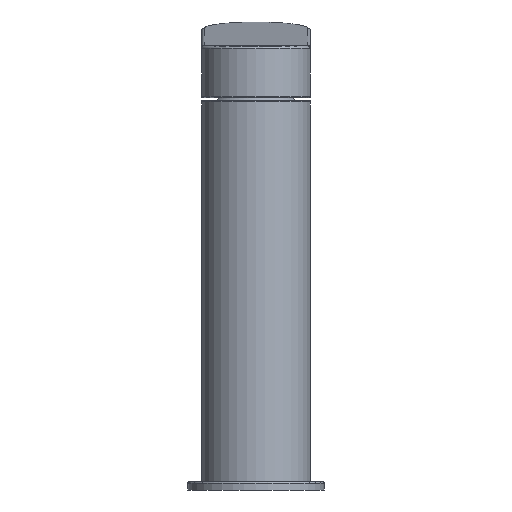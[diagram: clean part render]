
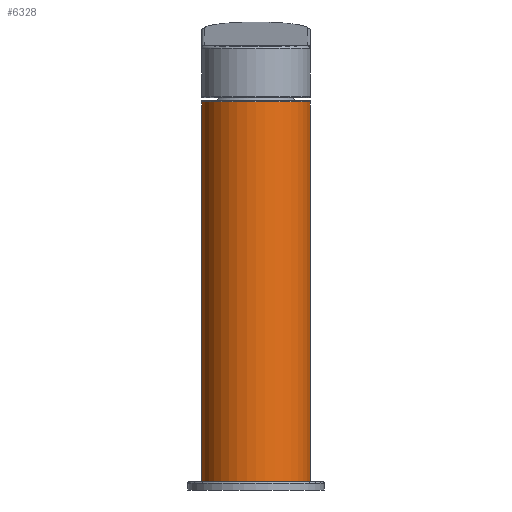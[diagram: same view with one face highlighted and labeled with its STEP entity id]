
A CAD part, front view. The second image highlights one B-rep face of the part: STEP entity #6328.
In plain terms, the highlighted cylindrical face has radius 20 mm (diameter 40 mm), a partial arc.
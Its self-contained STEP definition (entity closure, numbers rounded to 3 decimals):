
#3461 = VERTEX_POINT ( 'NONE', #125687 ) ;
#3939 = EDGE_CURVE ( 'NONE', #58303, #3461, #25566, .T. ) ;
#6328 = ADVANCED_FACE ( 'NONE', ( #72643 ), #45919, .T. ) ;
#7736 = CARTESIAN_POINT ( 'NONE',  ( 0., 0., 140. ) ) ;
#15978 = CARTESIAN_POINT ( 'NONE',  ( -20., 0., 139.5 ) ) ;
#16751 = DIRECTION ( 'NONE',  ( 0., 0., 1. ) ) ;
#20537 = LINE ( 'NONE', #71583, #169256 ) ;
#23329 = DIRECTION ( 'NONE',  ( 0., 0., -1. ) ) ;
#25566 = CIRCLE ( 'NONE', #122248, 20. ) ;
#25570 = VERTEX_POINT ( 'NONE', #44153 ) ;
#30587 = EDGE_CURVE ( 'NONE', #95245, #152677, #20537, .T. ) ;
#31141 = ORIENTED_EDGE ( 'NONE', *, *, #3939, .T. ) ;
#33434 = DIRECTION ( 'NONE',  ( 0., 0., -1. ) ) ;
#35023 = CARTESIAN_POINT ( 'NONE',  ( -20., 0., 0. ) ) ;
#35177 = CARTESIAN_POINT ( 'NONE',  ( -20., 0., 135.717 ) ) ;
#36091 = CARTESIAN_POINT ( 'NONE',  ( -20., 0., 140. ) ) ;
#40758 = ORIENTED_EDGE ( 'NONE', *, *, #30587, .T. ) ;
#43185 = EDGE_CURVE ( 'NONE', #50710, #25570, #43660, .T. ) ;
#43660 = LINE ( 'NONE', #96305, #59037 ) ;
#43875 = DIRECTION ( 'NONE',  ( 0., 0., 1. ) ) ;
#44153 = CARTESIAN_POINT ( 'NONE',  ( 20., 0., 139.5 ) ) ;
#45140 = EDGE_LOOP ( 'NONE', ( #157855, #59667, #149630, #40758, #72966, #31141 ) ) ;
#45919 = CYLINDRICAL_SURFACE ( 'NONE', #139033, 20. ) ;
#47382 = DIRECTION ( 'NONE',  ( 0., 0., -1. ) ) ;
#48368 = DIRECTION ( 'NONE',  ( -1., 0., 0. ) ) ;
#50710 = VERTEX_POINT ( 'NONE', #79911 ) ;
#50810 = VECTOR ( 'NONE', #33434, 1000. ) ;
#58303 = VERTEX_POINT ( 'NONE', #35023 ) ;
#59037 = VECTOR ( 'NONE', #16751, 1000. ) ;
#59667 = ORIENTED_EDGE ( 'NONE', *, *, #43185, .T. ) ;
#61622 = CIRCLE ( 'NONE', #155552, 20. ) ;
#62091 = LINE ( 'NONE', #36091, #125858 ) ;
#62853 = LINE ( 'NONE', #88669, #50810 ) ;
#71583 = CARTESIAN_POINT ( 'NONE',  ( -20., 0., 140. ) ) ;
#72304 = DIRECTION ( 'NONE',  ( -1., 0., 0. ) ) ;
#72643 = FACE_OUTER_BOUND ( 'NONE', #45140, .T. ) ;
#72966 = ORIENTED_EDGE ( 'NONE', *, *, #130474, .T. ) ;
#79911 = CARTESIAN_POINT ( 'NONE',  ( 20., 0., 135.717 ) ) ;
#88669 = CARTESIAN_POINT ( 'NONE',  ( 20., 0., 140. ) ) ;
#88770 = DIRECTION ( 'NONE',  ( 0., 0., -1. ) ) ;
#95245 = VERTEX_POINT ( 'NONE', #15978 ) ;
#96305 = CARTESIAN_POINT ( 'NONE',  ( 20., 0., 140. ) ) ;
#112477 = DIRECTION ( 'NONE',  ( -1., 0., 0. ) ) ;
#114089 = CARTESIAN_POINT ( 'NONE',  ( 0., 0., 139.5 ) ) ;
#119881 = EDGE_CURVE ( 'NONE', #50710, #3461, #62853, .T. ) ;
#122248 = AXIS2_PLACEMENT_3D ( 'NONE', #124238, #43875, #72304 ) ;
#124238 = CARTESIAN_POINT ( 'NONE',  ( 0., 0., 0. ) ) ;
#125687 = CARTESIAN_POINT ( 'NONE',  ( 20., 0., 0. ) ) ;
#125858 = VECTOR ( 'NONE', #88770, 1000. ) ;
#126175 = DIRECTION ( 'NONE',  ( 0., 0., -1. ) ) ;
#130474 = EDGE_CURVE ( 'NONE', #152677, #58303, #62091, .T. ) ;
#139033 = AXIS2_PLACEMENT_3D ( 'NONE', #7736, #23329, #112477 ) ;
#149630 = ORIENTED_EDGE ( 'NONE', *, *, #152412, .T. ) ;
#152412 = EDGE_CURVE ( 'NONE', #25570, #95245, #61622, .T. ) ;
#152677 = VERTEX_POINT ( 'NONE', #35177 ) ;
#155552 = AXIS2_PLACEMENT_3D ( 'NONE', #114089, #126175, #48368 ) ;
#157855 = ORIENTED_EDGE ( 'NONE', *, *, #119881, .F. ) ;
#169256 = VECTOR ( 'NONE', #47382, 1000. ) ;
